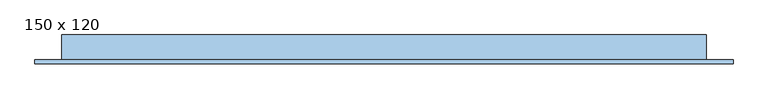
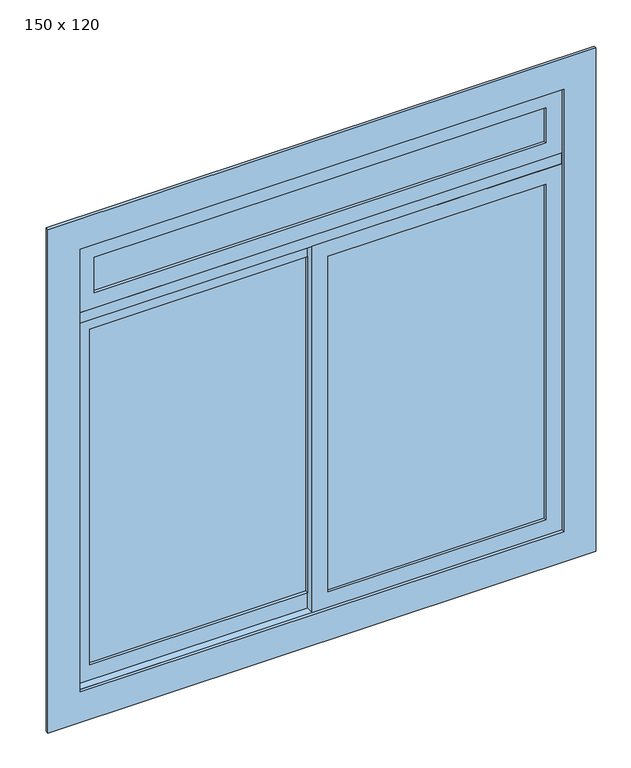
"""IFC4 building model written with IfcOpenShell, lengths in millimetres: window geometry, JANELA COM ESQUADRIA DE CORRER - 2 FOLHAS + BANDEIRA FIXA - 1 FOLHA : 150 x 120."""

from ifc_helpers import new_model, si_unit, frame, origin, place, context, project, spatial, polyline, outline, extrude, source, transform, mapped, element, save


def window_150_x_120_0872acb2(model_context):
    return source(origin(), model_context, "Body", "SweptSolid", [
        extrude(outline(polyline([(829.4035509, -60.3758395), (829.4035509, -66.3758395), (-570.5964491, -66.3758395), (-570.5964491, -60.3758395), (829.4035509, -60.3758395)])), frame((0.0, 0.0, 2285.0), z_axis=(0.0, 0.0, 1.0), x_axis=(1.0, 0.0, 0.0)), (0.0, 0.0, 1.0), 115.0),
        extrude(outline(polyline([(2450.0, 879.4035509), (2450.0, -620.5964491), (2235.0, -620.5964491), (2235.0, 879.4035509), (2450.0, 879.4035509)]), holes=[polyline([(2400.0, 829.4035509), (2285.0, 829.4035509), (2285.0, -570.5964491), (2400.0, -570.5964491), (2400.0, 829.4035509)])]), frame((0.0, -75.8758395, 0.0), z_axis=(0.0, 1.0, 0.0), x_axis=(0.0, 0.0, 1.0)), (0.0, 0.0, 1.0), 25.0),
        extrude(outline(polyline([(-570.5964491, -35.3758395), (104.4035509, -35.3758395), (104.4035509, -41.3758395), (-570.5964491, -41.3758395), (-570.5964491, -35.3758395)])), frame((0.0, 0.0, 1050.0), z_axis=(0.0, 0.0, 1.0), x_axis=(1.0, 0.0, 0.0)), (0.0, 0.0, 1.0), 1100.0),
        extrude(outline(polyline([(2200.0, -620.5964491), (1000.0, -620.5964491), (1000.0, 154.4035509), (2200.0, 154.4035509), (2200.0, -620.5964491)]), holes=[polyline([(2150.0, -570.5964491), (2150.0, 104.4035509), (1050.0, 104.4035509), (1050.0, -570.5964491), (2150.0, -570.5964491)])]), frame((0.0, -50.8758395, 0.0), z_axis=(0.0, 1.0, 0.0), x_axis=(0.0, 0.0, 1.0)), (0.0, 0.0, 1.0), 25.0),
        extrude(outline(polyline([(829.4035509, -60.3758395), (829.4035509, -66.3758395), (154.4035509, -66.3758395), (154.4035509, -60.3758395), (829.4035509, -60.3758395)])), frame((0.0, 0.0, 1050.0), z_axis=(0.0, 0.0, 1.0), x_axis=(1.0, 0.0, 0.0)), (0.0, 0.0, 1.0), 1100.0),
        extrude(outline(polyline([(2200.0, 879.4035509), (2200.0, 104.4035509), (1000.0, 104.4035509), (1000.0, 879.4035509), (2200.0, 879.4035509)]), holes=[polyline([(2150.0, 829.4035509), (1050.0, 829.4035509), (1050.0, 154.4035509), (2150.0, 154.4035509), (2150.0, 829.4035509)])]), frame((0.0, -75.8758395, 0.0), z_axis=(0.0, 1.0, 0.0), x_axis=(0.0, 0.0, 1.0)), (0.0, 0.0, 1.0), 25.0),
        extrude(outline(polyline([(900.0, -720.5964491), (900.0, 979.4035509), (2550.0, 979.4035509), (2550.0, -720.5964491), (900.0, -720.5964491)]), holes=[polyline([(2450.0, -620.5964491), (2450.0, 879.4035509), (1000.0, 879.4035509), (1000.0, -620.5964491), (2450.0, -620.5964491)])]), frame((0.0, -85.8758395, 0.0), z_axis=(0.0, 1.0, 0.0), x_axis=(0.0, 0.0, 1.0)), (0.0, 0.0, 1.0), 10.0),
        extrude(outline(polyline([(-655.5964491, -15.8758395), (-620.5964491, -15.8758395), (-620.5964491, -75.8758395), (-655.5964491, -75.8758395), (-655.5964491, -15.8758395)])), frame((0.0, 0.0, 1000.0), z_axis=(0.0, 0.0, 1.0), x_axis=(1.0, 0.0, 0.0)), (0.0, 0.0, 1.0), 1450.0),
        extrude(outline(polyline([(879.4035509, -15.8758395), (914.4035509, -15.8758395), (914.4035509, -75.8758395), (879.4035509, -75.8758395), (879.4035509, -15.8758395)])), frame((0.0, 0.0, 1000.0), z_axis=(0.0, 0.0, 1.0), x_axis=(1.0, 0.0, 0.0)), (0.0, 0.0, 1.0), 1450.0),
        extrude(outline(polyline([(-655.5964491, -15.8758395), (914.4035509, -15.8758395), (914.4035509, -75.8758395), (-655.5964491, -75.8758395), (-655.5964491, -15.8758395)])), frame((0.0, 0.0, 965.0), z_axis=(0.0, 0.0, 1.0), x_axis=(1.0, 0.0, 0.0)), (0.0, 0.0, 1.0), 35.0),
        extrude(outline(polyline([(-655.5964491, -15.8758395), (914.4035509, -15.8758395), (914.4035509, -75.8758395), (-655.5964491, -75.8758395), (-655.5964491, -15.8758395)])), frame((0.0, 0.0, 2450.0), z_axis=(0.0, 0.0, 1.0), x_axis=(1.0, 0.0, 0.0)), (0.0, 0.0, 1.0), 35.0),
        extrude(outline(polyline([(-620.5964491, -15.8758395), (879.4035509, -15.8758395), (879.4035509, -75.8758395), (-620.5964491, -75.8758395), (-620.5964491, -15.8758395)])), frame((0.0, 0.0, 2200.0), z_axis=(0.0, 0.0, 1.0), x_axis=(1.0, 0.0, 0.0)), (0.0, 0.0, 1.0), 35.0),
    ])


if __name__ == "__main__":
    model = new_model("IFC4")
    model_context = context("Model", 3, world=origin())
    ifc_project = project(units=[si_unit("LENGTHUNIT", "METRE", prefix="MILLI")], contexts=[model_context])
    site = spatial("IfcSite", under=ifc_project)
    building = spatial("IfcBuilding", under=site)
    placement = place(None, origin())
    window_150_x_120_shape = window_150_x_120_0872acb2(model_context)
    element("IfcWindow", 1, ObjectType="JANELA COM ESQUADRIA DE CORRER - 2 FOLHAS + BANDEIRA FIXA - 1 FOLHA : 150 x 120", at=placement, inside=building, context=model_context, shape_type="MappedRepresentation", body=[
        mapped(window_150_x_120_shape, transform((0.0, 0.0, 0.0), x_axis=(1.0, 0.0, 0.0), y_axis=(0.0, 1.0, 0.0), z_axis=(0.0, 0.0, 1.0))),
    ])
    save(model, "model.ifc")
